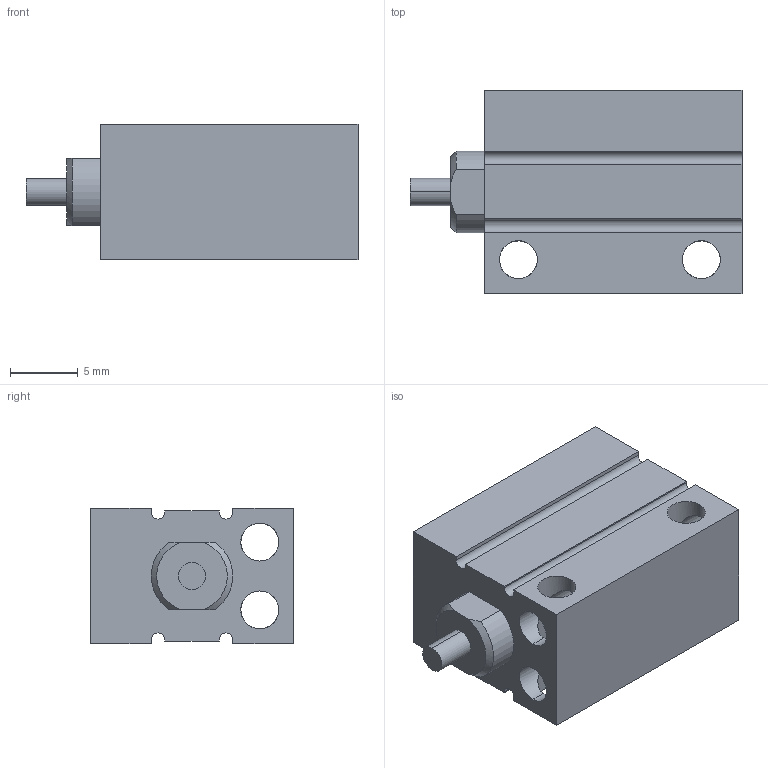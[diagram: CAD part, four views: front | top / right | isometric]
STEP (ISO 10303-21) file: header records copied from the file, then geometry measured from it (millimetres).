
FILE_DESCRIPTION (( 'STEP AP203' ), '1' );
FILE_NAME ('CLJB4-6.STEP', '2020-07-30T18:40:26', ( '' ), ( '' ), 'SwSTEP 2.0', 'SolidWorks 2019', '' );
FILE_SCHEMA (( 'CONFIG_CONTROL_DESIGN' ));
Length unit declared in the file: millimetre
Products named in the file (1): CLJB4-6
Bounding box: 24.5 x 15 x 10 mm (x, y, z)
Volume: 2449.2 mm3; surface area: 2035.6 mm2
Topology: 2 solids, 2 shells, 80 faces, 208 edges, 126 vertices
Faces by surface type: cylinder 44, plane 26, cone 10
Entity records: 2501 total; most frequent: CARTESIAN_POINT 519, ORIENTED_EDGE 408, DIRECTION 392, EDGE_CURVE 204, AXIS2_PLACEMENT_3D 143, VERTEX_POINT 126, LINE 106, VECTOR 106
